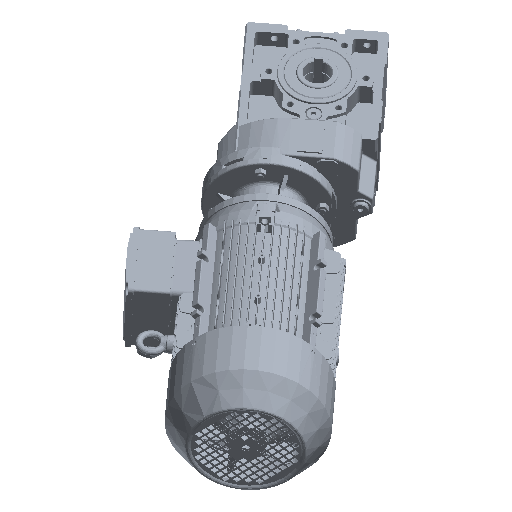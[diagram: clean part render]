
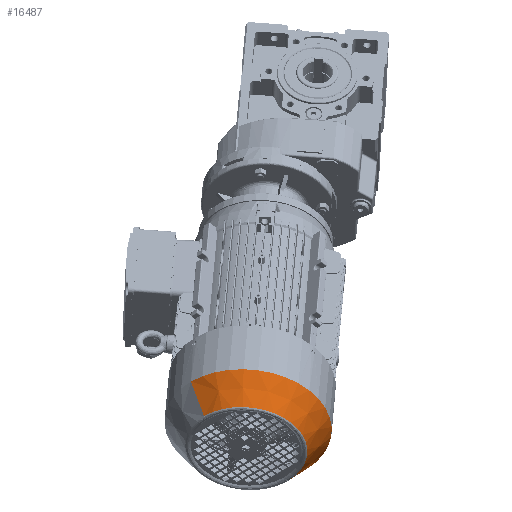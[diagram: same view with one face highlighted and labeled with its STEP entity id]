
A CAD part, left-side view. The second image highlights one B-rep face of the part: STEP entity #16487.
In plain terms, the highlighted conical face has half-angle 35.9 degrees and reference radius 99.05 mm.
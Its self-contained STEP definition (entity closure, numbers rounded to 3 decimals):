
#16487 = ADVANCED_FACE ( 'NONE', ( #166792 ), #166657, .T. ) ;
#44064 = EDGE_LOOP ( 'NONE', ( #153742, #153940, #153906, #153901 ) ) ;
#72767 = DIRECTION ( 'NONE',  ( -1., 0., 0. ) ) ;
#72808 = DIRECTION ( 'NONE',  ( 0., 0., 1. ) ) ;
#72862 = CARTESIAN_POINT ( 'NONE',  ( 70., 0., 0. ) ) ;
#103889 = LINE ( 'NONE', #117915, #104026 ) ;
#104026 = VECTOR ( 'NONE', #117917, 1000. ) ;
#104164 = VECTOR ( 'NONE', #118267, 1000. ) ;
#104217 = LINE ( 'NONE', #118440, #104164 ) ;
#104319 = CIRCLE ( 'NONE', #197836, 72.74 ) ;
#115378 = CARTESIAN_POINT ( 'NONE',  ( 106.345, 0., -72.74 ) ) ;
#115474 = CARTESIAN_POINT ( 'NONE',  ( 70., 0., 99.05 ) ) ;
#115587 = CARTESIAN_POINT ( 'NONE',  ( 106.345, 0., 72.74 ) ) ;
#115591 = CARTESIAN_POINT ( 'NONE',  ( 70., 0., -99.05 ) ) ;
#117915 = CARTESIAN_POINT ( 'NONE',  ( 70., 0., -99.05 ) ) ;
#117917 = DIRECTION ( 'NONE',  ( -0.81, 0., -0.586 ) ) ;
#118173 = CARTESIAN_POINT ( 'NONE',  ( 106.345, 0., 0. ) ) ;
#118224 = DIRECTION ( 'NONE',  ( -1., 0., 0. ) ) ;
#118248 = DIRECTION ( 'NONE',  ( 0., 0., 1. ) ) ;
#118267 = DIRECTION ( 'NONE',  ( -0.81, 0., 0.586 ) ) ;
#118440 = CARTESIAN_POINT ( 'NONE',  ( 70., 0., 99.05 ) ) ;
#137917 = EDGE_CURVE ( 'NONE', #188148, #188134, #233127, .T. ) ;
#140479 = EDGE_CURVE ( 'NONE', #188117, #188148, #103889, .T. ) ;
#140498 = EDGE_CURVE ( 'NONE', #188117, #188155, #104319, .T. ) ;
#140515 = EDGE_CURVE ( 'NONE', #188155, #188134, #104217, .T. ) ;
#144653 = AXIS2_PLACEMENT_3D ( 'NONE', #205432, #205434, #205453 ) ;
#153742 = ORIENTED_EDGE ( 'NONE', *, *, #140479, .F. ) ;
#153901 = ORIENTED_EDGE ( 'NONE', *, *, #137917, .F. ) ;
#153906 = ORIENTED_EDGE ( 'NONE', *, *, #140515, .T. ) ;
#153940 = ORIENTED_EDGE ( 'NONE', *, *, #140498, .T. ) ;
#166657 = CONICAL_SURFACE ( 'NONE', #144653, 99.05, 0.627 ) ;
#166792 = FACE_OUTER_BOUND ( 'NONE', #44064, .T. ) ;
#188117 = VERTEX_POINT ( 'NONE', #115378 ) ;
#188134 = VERTEX_POINT ( 'NONE', #115474 ) ;
#188148 = VERTEX_POINT ( 'NONE', #115591 ) ;
#188155 = VERTEX_POINT ( 'NONE', #115587 ) ;
#197372 = AXIS2_PLACEMENT_3D ( 'NONE', #72862, #72767, #72808 ) ;
#197836 = AXIS2_PLACEMENT_3D ( 'NONE', #118173, #118224, #118248 ) ;
#205432 = CARTESIAN_POINT ( 'NONE',  ( 70., 0., 0. ) ) ;
#205434 = DIRECTION ( 'NONE',  ( -1., 0., 0. ) ) ;
#205453 = DIRECTION ( 'NONE',  ( 0., 0., 1. ) ) ;
#233127 = CIRCLE ( 'NONE', #197372, 99.05 ) ;
